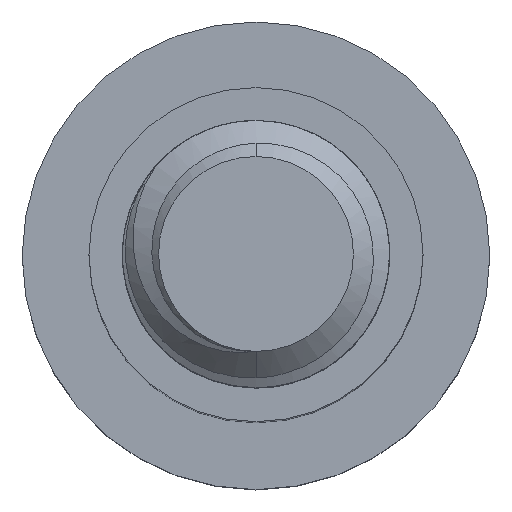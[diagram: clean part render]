
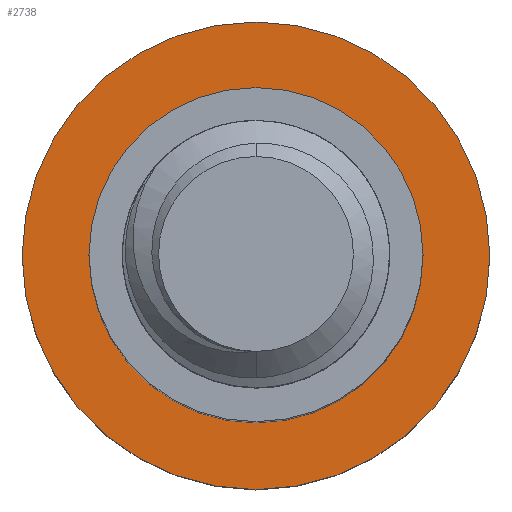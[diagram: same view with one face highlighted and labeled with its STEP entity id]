
A CAD part, top view. The second image highlights one B-rep face of the part: STEP entity #2738.
In plain terms, the highlighted planar face has unit normal (0, 0, 1).
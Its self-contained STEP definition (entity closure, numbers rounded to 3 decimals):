
#397 = CARTESIAN_POINT ( 'NONE',  ( 7., 0., -20. ) ) ;
#478 = VERTEX_POINT ( 'NONE', #3726 ) ;
#573 = AXIS2_PLACEMENT_3D ( 'NONE', #1943, #2972, #1603 ) ;
#783 = AXIS2_PLACEMENT_3D ( 'NONE', #2129, #4038, #3113 ) ;
#1416 = FACE_BOUND ( 'NONE', #3409, .T. ) ;
#1435 = DIRECTION ( 'NONE',  ( -1., 0., 0. ) ) ;
#1525 = VERTEX_POINT ( 'NONE', #3832 ) ;
#1597 = CARTESIAN_POINT ( 'NONE',  ( 0., 0., -20. ) ) ;
#1603 = DIRECTION ( 'NONE',  ( -1., 0., 0. ) ) ;
#1712 = ORIENTED_EDGE ( 'NONE', *, *, #1920, .F. ) ;
#1811 = AXIS2_PLACEMENT_3D ( 'NONE', #1597, #2900, #2209 ) ;
#1920 = EDGE_CURVE ( 'NONE', #3371, #478, #3166, .T. ) ;
#1943 = CARTESIAN_POINT ( 'NONE',  ( 0., 0., -20. ) ) ;
#2086 = CIRCLE ( 'NONE', #783, 7. ) ;
#2129 = CARTESIAN_POINT ( 'NONE',  ( 0., 0., -20. ) ) ;
#2209 = DIRECTION ( 'NONE',  ( -1., 0., 0. ) ) ;
#2289 = VERTEX_POINT ( 'NONE', #3926 ) ;
#2298 = CIRCLE ( 'NONE', #1811, 5. ) ;
#2324 = EDGE_CURVE ( 'NONE', #1525, #2289, #2298, .T. ) ;
#2359 = PLANE ( 'NONE',  #2567 ) ;
#2377 = AXIS2_PLACEMENT_3D ( 'NONE', #3256, #2892, #3183 ) ;
#2567 = AXIS2_PLACEMENT_3D ( 'NONE', #4018, #3315, #1435 ) ;
#2680 = FACE_OUTER_BOUND ( 'NONE', #3936, .T. ) ;
#2738 = ADVANCED_FACE ( 'NONE', ( #1416, #2680 ), #2359, .F. ) ;
#2892 = DIRECTION ( 'NONE',  ( 0., 0., -1. ) ) ;
#2900 = DIRECTION ( 'NONE',  ( 0., 0., -1. ) ) ;
#2972 = DIRECTION ( 'NONE',  ( 0., 0., -1. ) ) ;
#2992 = ORIENTED_EDGE ( 'NONE', *, *, #3335, .T. ) ;
#2998 = ORIENTED_EDGE ( 'NONE', *, *, #3090, .F. ) ;
#3090 = EDGE_CURVE ( 'NONE', #478, #3371, #2086, .T. ) ;
#3113 = DIRECTION ( 'NONE',  ( -1., 0., 0. ) ) ;
#3166 = CIRCLE ( 'NONE', #573, 7. ) ;
#3183 = DIRECTION ( 'NONE',  ( -1., 0., 0. ) ) ;
#3256 = CARTESIAN_POINT ( 'NONE',  ( 0., 0., -20. ) ) ;
#3315 = DIRECTION ( 'NONE',  ( 0., 0., -1. ) ) ;
#3335 = EDGE_CURVE ( 'NONE', #2289, #1525, #3660, .T. ) ;
#3371 = VERTEX_POINT ( 'NONE', #397 ) ;
#3409 = EDGE_LOOP ( 'NONE', ( #3928, #2992 ) ) ;
#3660 = CIRCLE ( 'NONE', #2377, 5. ) ;
#3726 = CARTESIAN_POINT ( 'NONE',  ( -7., 0., -20. ) ) ;
#3832 = CARTESIAN_POINT ( 'NONE',  ( -5., 0., -20. ) ) ;
#3926 = CARTESIAN_POINT ( 'NONE',  ( 5., 0., -20. ) ) ;
#3928 = ORIENTED_EDGE ( 'NONE', *, *, #2324, .T. ) ;
#3936 = EDGE_LOOP ( 'NONE', ( #1712, #2998 ) ) ;
#4018 = CARTESIAN_POINT ( 'NONE',  ( 0., 0., -20. ) ) ;
#4038 = DIRECTION ( 'NONE',  ( 0., 0., -1. ) ) ;
